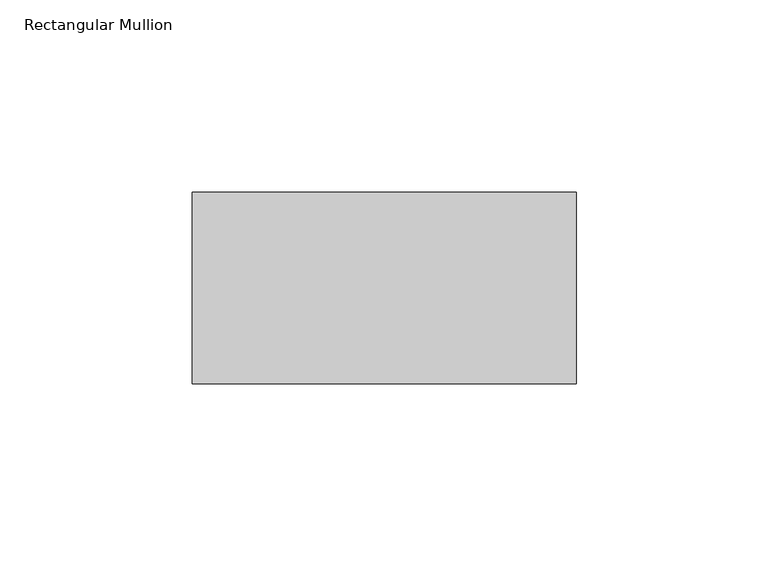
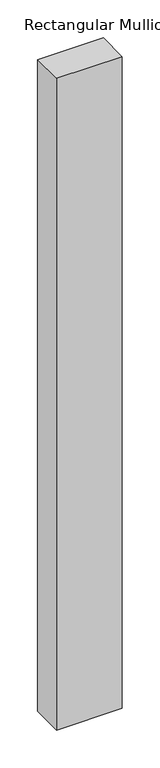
"""IFC4 building model written with IfcOpenShell, lengths in millimetres: member geometry, Rectangular Mullion : Mullion_Curtain Wall_Generic Showcase_50x100mm."""

from ifc_helpers import new_model, si_unit, frame, origin, place, context, project, spatial, polyline, outline, extrude, source, transform, mapped, element, save


def rectangular_mullion_c3e8b248(model_context):
    return source(origin(), model_context, "Body", "SweptSolid", [
        extrude(outline(polyline([(0.0, 50.0), (0.0, 0.0), (-100.0, 0.0), (-100.0, 50.0), (0.0, 50.0)])), frame((0.0, 0.0, -1050.0), z_axis=(0.0, 0.0, 1.0), x_axis=(1.0, 0.0, 0.0)), (0.0, 0.0, 1.0), 1050.0),
    ])


if __name__ == "__main__":
    model = new_model("IFC4")
    model_context = context("Model", 3, world=origin())
    ifc_project = project(units=[si_unit("LENGTHUNIT", "METRE", prefix="MILLI")], contexts=[model_context])
    site = spatial("IfcSite", under=ifc_project)
    building = spatial("IfcBuilding", under=site)
    placement = place(None, origin())
    rectangular_mullion_shape = rectangular_mullion_c3e8b248(model_context)
    element("IfcMember", 1, ObjectType="Rectangular Mullion : Mullion_Curtain Wall_Generic Showcase_50x100mm", at=placement, inside=building, context=model_context, shape_type="MappedRepresentation", body=[
        mapped(rectangular_mullion_shape, transform((0.0, 0.0, 0.0), x_axis=(1.0, 0.0, 0.0), y_axis=(0.0, 1.0, 0.0), z_axis=(0.0, 0.0, 1.0))),
    ])
    save(model, "model.ifc")
